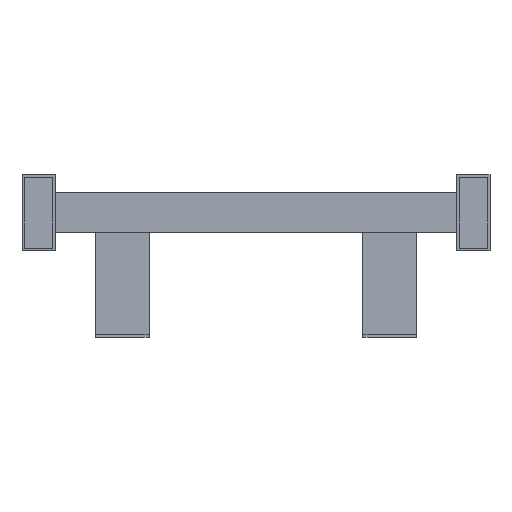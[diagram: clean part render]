
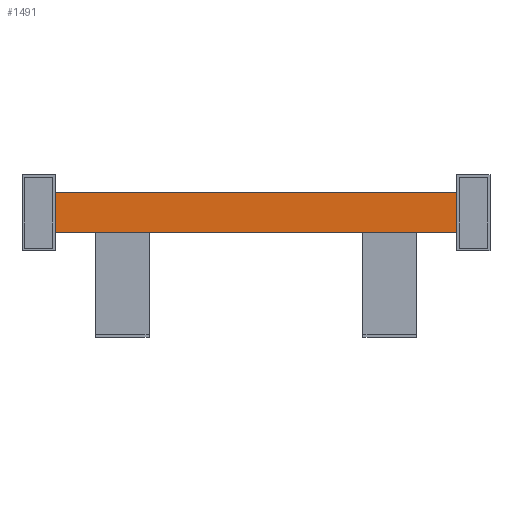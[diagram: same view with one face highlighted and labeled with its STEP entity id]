
A CAD part, front view. The second image highlights one B-rep face of the part: STEP entity #1491.
In plain terms, the highlighted planar face has unit normal (0, -1, 0).
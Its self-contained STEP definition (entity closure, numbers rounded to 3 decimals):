
#253=DIRECTION('',(0.,0.,1.));
#254=VECTOR('',#253,30.);
#255=CARTESIAN_POINT('',(-150.,250.,-15.));
#256=LINE('',#255,#254);
#353=DIRECTION('',(0.,0.,1.));
#354=VECTOR('',#353,30.);
#355=CARTESIAN_POINT('',(150.,250.,-15.));
#356=LINE('',#355,#354);
#561=DIRECTION('',(1.,0.,0.));
#562=VECTOR('',#561,300.);
#563=CARTESIAN_POINT('',(-150.,250.,-15.));
#564=LINE('',#563,#562);
#573=DIRECTION('',(1.,0.,0.));
#574=VECTOR('',#573,300.);
#575=CARTESIAN_POINT('',(-150.,250.,15.));
#576=LINE('',#575,#574);
#721=CARTESIAN_POINT('',(-150.,250.,-15.));
#723=VERTEX_POINT('',#721);
#725=CARTESIAN_POINT('',(-150.,250.,15.));
#727=VERTEX_POINT('',#725);
#729=CARTESIAN_POINT('',(150.,250.,-15.));
#731=VERTEX_POINT('',#729);
#733=CARTESIAN_POINT('',(150.,250.,15.));
#735=VERTEX_POINT('',#733);
#1479=CARTESIAN_POINT('',(-150.,250.,-15.));
#1480=DIRECTION('',(0.,-1.,0.));
#1481=DIRECTION('',(1.,0.,0.));
#1482=AXIS2_PLACEMENT_3D('',#1479,#1480,#1481);
#1483=PLANE('',#1482);
#1484=ORIENTED_EDGE('',*,*,#960,.T.);
#1486=ORIENTED_EDGE('',*,*,#1485,.T.);
#1487=ORIENTED_EDGE('',*,*,#1064,.F.);
#1488=ORIENTED_EDGE('',*,*,#1471,.F.);
#1489=EDGE_LOOP('',(#1484,#1486,#1487,#1488));
#1490=FACE_OUTER_BOUND('',#1489,.F.);
#960=EDGE_CURVE('',#723,#727,#256,.T.);
#1064=EDGE_CURVE('',#731,#735,#356,.T.);
#1471=EDGE_CURVE('',#723,#731,#564,.T.);
#1485=EDGE_CURVE('',#727,#735,#576,.T.);
#1491=ADVANCED_FACE('',(#1490),#1483,.T.);
